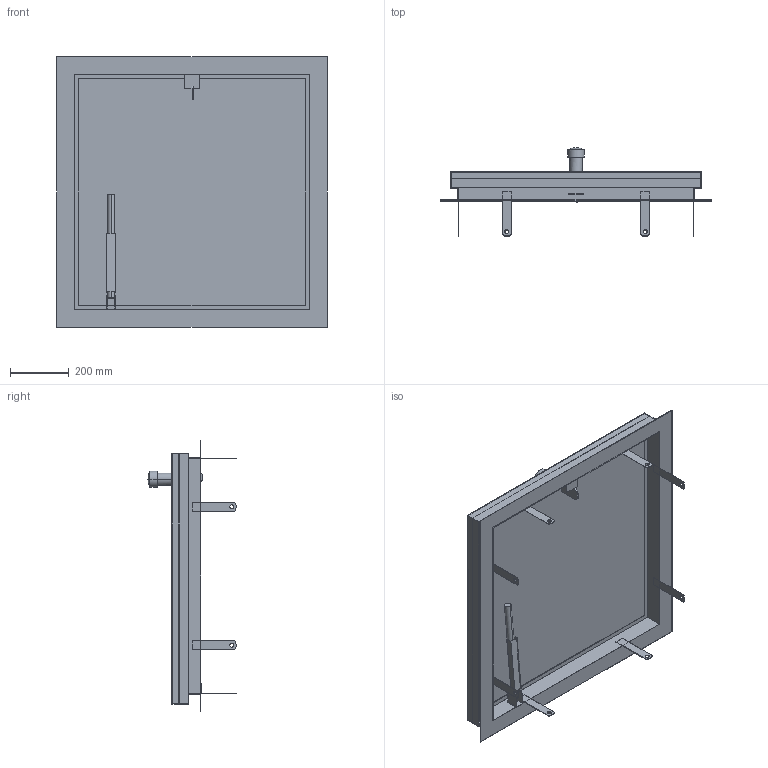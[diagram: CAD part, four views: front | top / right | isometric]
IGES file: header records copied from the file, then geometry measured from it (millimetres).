
Start section:  PTC IGES file: 52335830.igs
Global section: file name: 52335830.igs; native system: Creo Parametric by PTC Inc.; preprocessor: 2022162; author: wep; organization: Unknown; date: 20241219.073647; units: millimetre
Bounding box: 920 x 300 x 920 mm (x, y, z)
Surface area: 4293048.5 mm2 (no closed solid volume)
Topology: 0 solids, 0 shells, 734 faces, 3990 edges, 3988 vertices
Faces by surface type: bspline 422, extrusion 275, revolution 37
